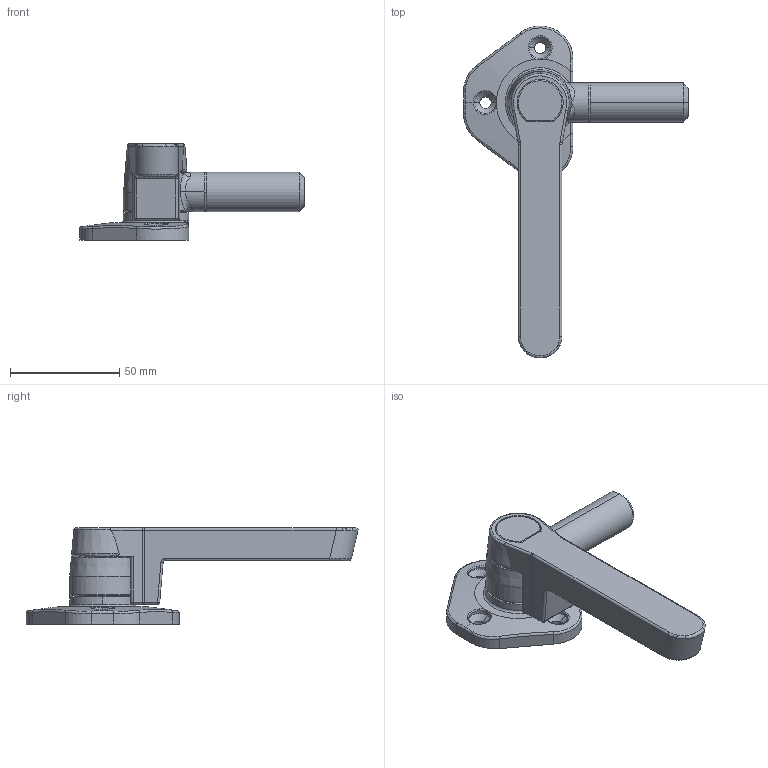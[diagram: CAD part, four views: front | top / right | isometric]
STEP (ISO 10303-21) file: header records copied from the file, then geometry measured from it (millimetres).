
FILE_DESCRIPTION (( 'STEP AP214' ), '1' );
FILE_NAME ('EL-115L.STEP', '2016-02-06T17:01:29', ( '' ), ( '' ), 'SwSTEP 2.0', 'SolidWorks 2012', '' );
FILE_SCHEMA (( 'AUTOMOTIVE_DESIGN' ));
Length unit declared in the file: millimetre
Products named in the file (5): EL-115D; EL-115C; EL-115BN; EL-115A; EL-115L
Assembly tree (4 placements, depth 2):
  EL-115L
    EL-115A
    EL-115BN
    EL-115C
    EL-115D
Bounding box: 102.8 x 151.72 x 44 mm (x, y, z)
Volume: 77031.8 mm3; surface area: 27558.8 mm2
Topology: 4 solids, 4 shells, 253 faces, 629 edges, 377 vertices
Faces by surface type: cylinder 109, plane 51, bspline 43, torus 29, cone 13, sphere 8
Entity records: 10985 total; most frequent: CARTESIAN_POINT 5043, ORIENTED_EDGE 1226, DIRECTION 1213, EDGE_CURVE 613, AXIS2_PLACEMENT_3D 504, VERTEX_POINT 377, CIRCLE 287, EDGE_LOOP 268
